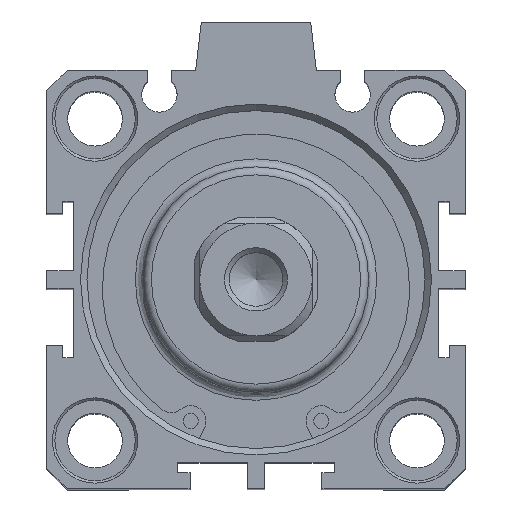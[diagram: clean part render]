
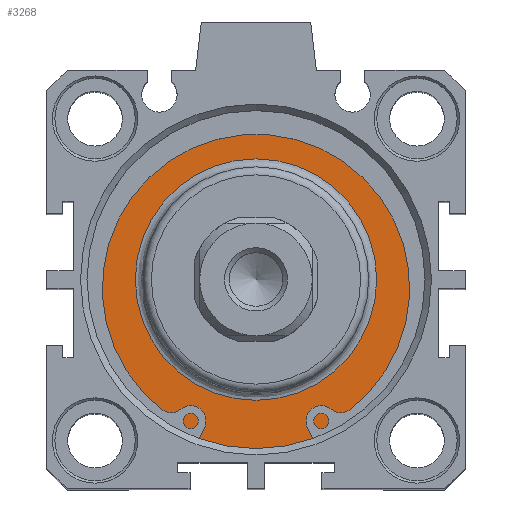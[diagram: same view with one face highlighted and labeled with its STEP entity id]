
A CAD part, top view. The second image highlights one B-rep face of the part: STEP entity #3268.
In plain terms, the highlighted planar face has unit normal (0, 0, 1).
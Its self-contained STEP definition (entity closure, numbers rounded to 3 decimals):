
#3217=CARTESIAN_POINT('',(0.598,16.555,82.4));
#3218=VERTEX_POINT('',#3217);
#3219=CARTESIAN_POINT('',(0.598,1.555,82.4));
#3220=DIRECTION('',(0.0,0.0,1.0));
#3221=DIRECTION('',(0.0,-1.0,0.0));
#3222=AXIS2_PLACEMENT_3D('',#3219,#3220,#3221);
#3223=CIRCLE('',#3222,15.0);
#3224=EDGE_CURVE('',#3218,#3218,#3223,.T.);
#3249=CARTESIAN_POINT('',(0.598,19.055,82.4));
#3250=DIRECTION('',(0.0,0.0,1.0));
#3251=DIRECTION('',(1.0,0.0,0.0));
#3252=AXIS2_PLACEMENT_3D('',#3249,#3250,#3251);
#3253=PLANE('',#3252);
#3254=CARTESIAN_POINT('',(0.598,22.555,82.4));
#3255=VERTEX_POINT('',#3254);
#3256=CARTESIAN_POINT('',(0.598,1.555,82.4));
#3257=DIRECTION('',(0.0,0.0,-1.0));
#3258=DIRECTION('',(0.0,1.0,0.0));
#3259=AXIS2_PLACEMENT_3D('',#3256,#3257,#3258);
#3260=CIRCLE('',#3259,21.);
#3261=EDGE_CURVE('',#3255,#3255,#3260,.T.);
#3262=ORIENTED_EDGE('',*,*,#3261,.F.);
#3263=EDGE_LOOP('',(#3262));
#3264=FACE_OUTER_BOUND('',#3263,.T.);
#3265=ORIENTED_EDGE('',*,*,#3224,.F.);
#3266=EDGE_LOOP('',(#3265));
#3267=FACE_BOUND('',#3266,.T.);
#3268=ADVANCED_FACE('',(#3264,#3267),#3253,.T.);
